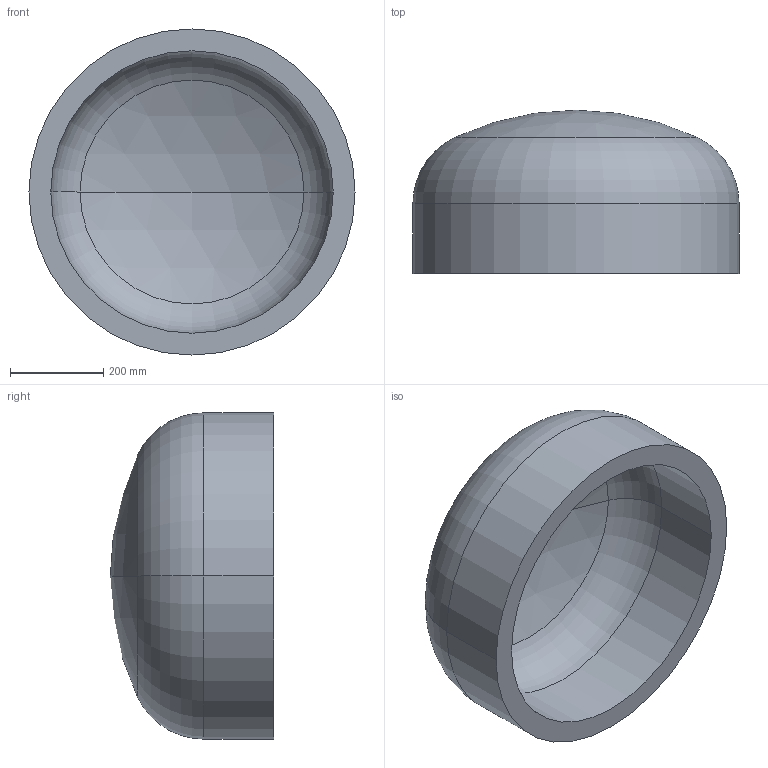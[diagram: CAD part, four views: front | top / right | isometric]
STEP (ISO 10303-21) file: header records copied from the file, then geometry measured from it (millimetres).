
FILE_DESCRIPTION (( 'STEP AP203' ), '1' );
FILE_NAME ('DIN 28013 Korbbogenform_-_Boden DIN 28013 - 700 x 150 - I - s=47.step', '2016-07-01T08:08:28', ( '' ), ( '' ), 'SwSTEP 2.0', 'SolidWorks 2013', '' );
FILE_SCHEMA (( 'CONFIG_CONTROL_DESIGN' ));
Length unit declared in the file: millimetre
Products named in the file (1): DIN 28013 Korbbogenform_-_Boden DIN 28013 - 700 x 150 - I - s=47
Bounding box: 700 x 350.49 x 700 mm (x, y, z)
Volume: 37567696.7 mm3; surface area: 1699670.3 mm2
Topology: 1 solids, 1 shells, 13 faces, 24 edges, 14 vertices
Faces by surface type: torus 4, cylinder 4, sphere 4, plane 1
Entity records: 407 total; most frequent: DIRECTION 72, CARTESIAN_POINT 52, ORIENTED_EDGE 48, AXIS2_PLACEMENT_3D 34, EDGE_CURVE 24, CIRCLE 20, EDGE_LOOP 14, VERTEX_POINT 14
